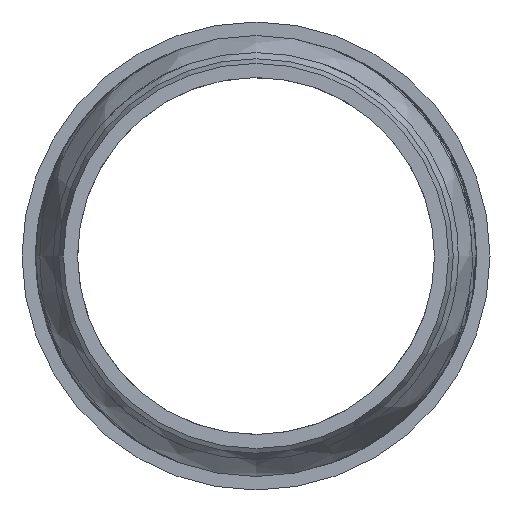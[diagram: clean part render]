
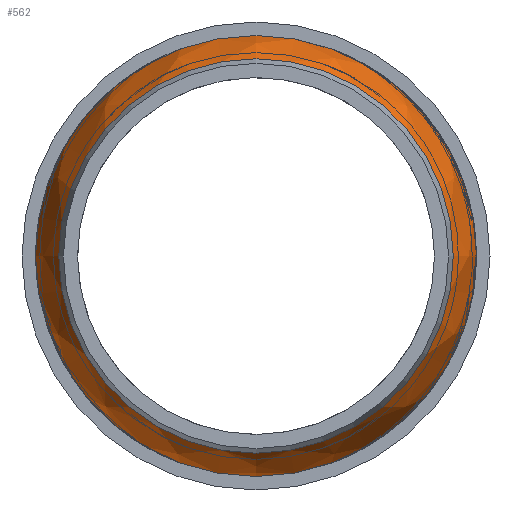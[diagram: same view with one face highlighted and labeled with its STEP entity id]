
A CAD part, left-side view. The second image highlights one B-rep face of the part: STEP entity #562.
In plain terms, the highlighted free-form (B-spline) face has degree [2, 2] with [3, 9] control points.
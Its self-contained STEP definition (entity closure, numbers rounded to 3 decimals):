
#11=(
BOUNDED_CURVE()
B_SPLINE_CURVE(2,(#2117,#2118,#2119),.UNSPECIFIED.,.F.,.F.)
B_SPLINE_CURVE_WITH_KNOTS((3,3),(0.109,0.66),
 .UNSPECIFIED.)
CURVE()
GEOMETRIC_REPRESENTATION_ITEM()
RATIONAL_B_SPLINE_CURVE((1.,0.962,1.))
REPRESENTATION_ITEM('')
);
#12=(
BOUNDED_SURFACE()
B_SPLINE_SURFACE(2,2,((#2090,#2091,#2092,#2093,#2094,#2095,#2096,#2097,
#2098),(#2099,#2100,#2101,#2102,#2103,#2104,#2105,#2106,#2107),(#2108,#2109,
#2110,#2111,#2112,#2113,#2114,#2115,#2116)),.UNSPECIFIED.,.F.,.T.,.F.)
B_SPLINE_SURFACE_WITH_KNOTS((3,3),(3,2,2,2,3),(-0.66,-0.109),
(-3.142,-1.571,0.,1.571,3.142),
 .UNSPECIFIED.)
GEOMETRIC_REPRESENTATION_ITEM()
RATIONAL_B_SPLINE_SURFACE(((1.,0.707,1.,0.707,1.,
0.707,1.,0.707,1.),(0.962,0.68,
0.962,0.68,0.962,0.68,
0.962,0.68,0.962),(1.,0.707,
1.,0.707,1.,0.707,1.,0.707,1.)))
REPRESENTATION_ITEM('')
SURFACE()
);
#147=FACE_OUTER_BOUND('',#207,.T.);
#207=EDGE_LOOP('',(#468,#469,#470,#471,#472,#473,#474));
#233=CIRCLE('',#603,50.4);
#234=CIRCLE('',#604,50.4);
#235=CIRCLE('',#605,50.4);
#241=CIRCLE('',#624,45.1);
#242=CIRCLE('',#625,45.1);
#275=VERTEX_POINT('',#1401);
#284=VERTEX_POINT('',#1813);
#285=VERTEX_POINT('',#1814);
#296=VERTEX_POINT('',#2086);
#297=VERTEX_POINT('',#2087);
#343=EDGE_CURVE('',#284,#285,#233,.T.);
#344=EDGE_CURVE('',#285,#275,#234,.T.);
#345=EDGE_CURVE('',#275,#284,#235,.T.);
#357=EDGE_CURVE('',#296,#297,#241,.T.);
#358=EDGE_CURVE('',#297,#296,#242,.T.);
#359=EDGE_CURVE('',#285,#297,#11,.T.);
#468=ORIENTED_EDGE('',*,*,#343,.F.);
#469=ORIENTED_EDGE('',*,*,#345,.F.);
#470=ORIENTED_EDGE('',*,*,#344,.F.);
#471=ORIENTED_EDGE('',*,*,#359,.T.);
#472=ORIENTED_EDGE('',*,*,#358,.T.);
#473=ORIENTED_EDGE('',*,*,#357,.T.);
#474=ORIENTED_EDGE('',*,*,#359,.F.);
#562=ADVANCED_FACE('',(#147),#12,.F.);
#603=AXIS2_PLACEMENT_3D('',#1815,#697,#698);
#604=AXIS2_PLACEMENT_3D('',#1816,#699,#700);
#605=AXIS2_PLACEMENT_3D('',#1817,#701,#702);
#624=AXIS2_PLACEMENT_3D('',#2088,#739,#740);
#625=AXIS2_PLACEMENT_3D('',#2089,#741,#742);
#697=DIRECTION('center_axis',(1.,0.,0.));
#698=DIRECTION('ref_axis',(0.,0.,
1.));
#699=DIRECTION('center_axis',(1.,0.,0.));
#700=DIRECTION('ref_axis',(0.,0.,
1.));
#701=DIRECTION('center_axis',(1.,0.,0.));
#702=DIRECTION('ref_axis',(0.,0.,
1.));
#739=DIRECTION('center_axis',(1.,0.,0.));
#740=DIRECTION('ref_axis',(0.,0.,
1.));
#741=DIRECTION('center_axis',(1.,0.,0.));
#742=DIRECTION('ref_axis',(0.,0.,
1.));
#1401=CARTESIAN_POINT('',(1509.4,50.4,0.));
#1813=CARTESIAN_POINT('',(1509.4,-50.4,0.));
#1814=CARTESIAN_POINT('',(1509.4,0.,-50.4));
#1815=CARTESIAN_POINT('Origin',(1509.4,0.,
0.));
#1816=CARTESIAN_POINT('Origin',(1509.4,0.,
0.));
#1817=CARTESIAN_POINT('Origin',(1509.4,0.,
0.));
#2086=CARTESIAN_POINT('',(1496.3,-45.1,0.));
#2087=CARTESIAN_POINT('',(1496.3,0.,-45.1));
#2088=CARTESIAN_POINT('Origin',(1496.3,0.,
0.));
#2089=CARTESIAN_POINT('Origin',(1496.3,0.,
0.));
#2090=CARTESIAN_POINT('Ctrl Pts',(1496.3,0.,
-45.1));
#2091=CARTESIAN_POINT('Ctrl Pts',(1496.3,45.1,-45.1));
#2092=CARTESIAN_POINT('Ctrl Pts',(1496.3,45.1,0.));
#2093=CARTESIAN_POINT('Ctrl Pts',(1496.3,45.1,45.1));
#2094=CARTESIAN_POINT('Ctrl Pts',(1496.3,0.,
45.1));
#2095=CARTESIAN_POINT('Ctrl Pts',(1496.3,-45.1,45.1));
#2096=CARTESIAN_POINT('Ctrl Pts',(1496.3,-45.1,0.));
#2097=CARTESIAN_POINT('Ctrl Pts',(1496.3,-45.1,-45.1));
#2098=CARTESIAN_POINT('Ctrl Pts',(1496.3,0.,
-45.1));
#2099=CARTESIAN_POINT('Ctrl Pts',(1502.102,0.,
-49.6));
#2100=CARTESIAN_POINT('Ctrl Pts',(1502.102,49.6,-49.6));
#2101=CARTESIAN_POINT('Ctrl Pts',(1502.102,49.6,0.));
#2102=CARTESIAN_POINT('Ctrl Pts',(1502.102,49.6,49.6));
#2103=CARTESIAN_POINT('Ctrl Pts',(1502.102,0.,
49.6));
#2104=CARTESIAN_POINT('Ctrl Pts',(1502.102,-49.6,49.6));
#2105=CARTESIAN_POINT('Ctrl Pts',(1502.102,-49.6,0.));
#2106=CARTESIAN_POINT('Ctrl Pts',(1502.102,-49.6,-49.6));
#2107=CARTESIAN_POINT('Ctrl Pts',(1502.102,0.,
-49.6));
#2108=CARTESIAN_POINT('Ctrl Pts',(1509.4,0.,
-50.4));
#2109=CARTESIAN_POINT('Ctrl Pts',(1509.4,50.4,-50.4));
#2110=CARTESIAN_POINT('Ctrl Pts',(1509.4,50.4,0.));
#2111=CARTESIAN_POINT('Ctrl Pts',(1509.4,50.4,50.4));
#2112=CARTESIAN_POINT('Ctrl Pts',(1509.4,0.,
50.4));
#2113=CARTESIAN_POINT('Ctrl Pts',(1509.4,-50.4,50.4));
#2114=CARTESIAN_POINT('Ctrl Pts',(1509.4,-50.4,0.));
#2115=CARTESIAN_POINT('Ctrl Pts',(1509.4,-50.4,-50.4));
#2116=CARTESIAN_POINT('Ctrl Pts',(1509.4,0.,
-50.4));
#2117=CARTESIAN_POINT('Ctrl Pts',(1509.4,0.,
-50.4));
#2118=CARTESIAN_POINT('Ctrl Pts',(1502.102,0.,
-49.6));
#2119=CARTESIAN_POINT('Ctrl Pts',(1496.3,0.,
-45.1));
